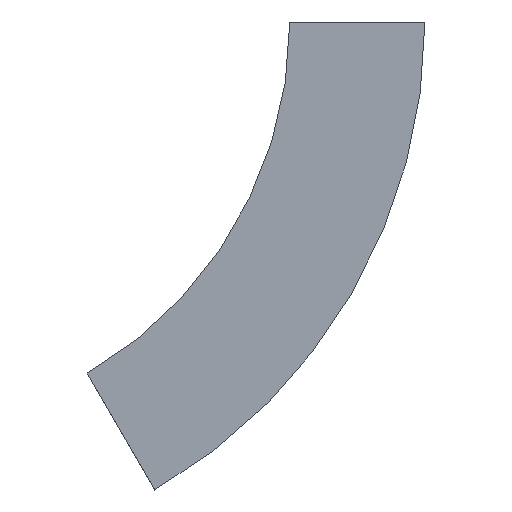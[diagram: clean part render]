
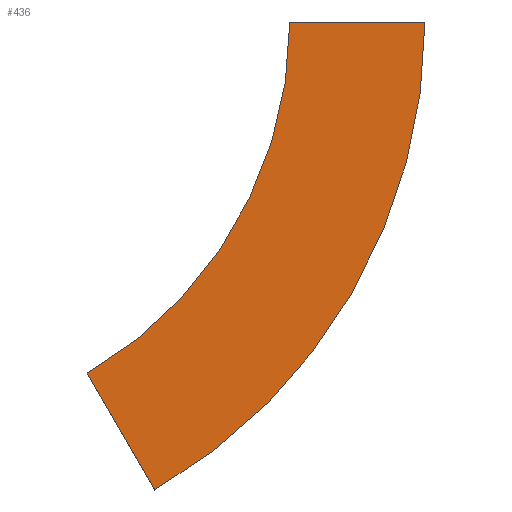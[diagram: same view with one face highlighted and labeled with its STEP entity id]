
A CAD part, left-side view. The second image highlights one B-rep face of the part: STEP entity #436.
In plain terms, the highlighted planar face has unit normal (-1, 0, 0) as drawn and (1, 0, 0) by its records, which use the part's own axes.
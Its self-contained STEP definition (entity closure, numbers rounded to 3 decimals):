
#4 = CARTESIAN_POINT ( 'NONE',  ( 0., 300., 0. ) ) ;
#18 = EDGE_CURVE ( 'NONE', #133, #458, #37, .T. ) ;
#28 = VERTEX_POINT ( 'NONE', #339 ) ;
#37 = CIRCLE ( 'NONE', #375, 400. ) ;
#38 = DIRECTION ( 'NONE',  ( 0., 0.5, 0.866 ) ) ;
#69 = CARTESIAN_POINT ( 'NONE',  ( 0., 300., 0. ) ) ;
#78 = DIRECTION ( 'NONE',  ( -1., 0., 0. ) ) ;
#131 = AXIS2_PLACEMENT_3D ( 'NONE', #453, #78, #315 ) ;
#133 = VERTEX_POINT ( 'NONE', #151 ) ;
#151 = CARTESIAN_POINT ( 'NONE',  ( 0., -100., 0. ) ) ;
#170 = PLANE ( 'NONE',  #131 ) ;
#191 = ORIENTED_EDGE ( 'NONE', *, *, #18, .T. ) ;
#207 = AXIS2_PLACEMENT_3D ( 'NONE', #4, #526, #395 ) ;
#208 = DIRECTION ( 'NONE',  ( 1., 0., 0. ) ) ;
#219 = VECTOR ( 'NONE', #38, 1000. ) ;
#238 = ORIENTED_EDGE ( 'NONE', *, *, #499, .T. ) ;
#271 = FACE_OUTER_BOUND ( 'NONE', #492, .T. ) ;
#308 = CARTESIAN_POINT ( 'NONE',  ( 0., -100., 0. ) ) ;
#315 = DIRECTION ( 'NONE',  ( 0., 0., 1. ) ) ;
#326 = ORIENTED_EDGE ( 'NONE', *, *, #394, .F. ) ;
#330 = ORIENTED_EDGE ( 'NONE', *, *, #380, .F. ) ;
#339 = CARTESIAN_POINT ( 'NONE',  ( 0., 0., 0. ) ) ;
#349 = DIRECTION ( 'NONE',  ( 0., 1., 0. ) ) ;
#356 = CIRCLE ( 'NONE', #207, 300. ) ;
#375 = AXIS2_PLACEMENT_3D ( 'NONE', #69, #208, #469 ) ;
#380 = EDGE_CURVE ( 'NONE', #133, #28, #571, .T. ) ;
#394 = EDGE_CURVE ( 'NONE', #28, #416, #356, .T. ) ;
#395 = DIRECTION ( 'NONE',  ( 0., -1., 0. ) ) ;
#416 = VERTEX_POINT ( 'NONE', #569 ) ;
#436 = ADVANCED_FACE ( 'NONE', ( #271 ), #170, .F. ) ;
#453 = CARTESIAN_POINT ( 'NONE',  ( 0., -100., 0. ) ) ;
#458 = VERTEX_POINT ( 'NONE', #482 ) ;
#467 = VECTOR ( 'NONE', #349, 1000. ) ;
#469 = DIRECTION ( 'NONE',  ( 0., -1., 0. ) ) ;
#482 = CARTESIAN_POINT ( 'NONE',  ( 0., 100., -346.41 ) ) ;
#492 = EDGE_LOOP ( 'NONE', ( #326, #330, #191, #238 ) ) ;
#499 = EDGE_CURVE ( 'NONE', #458, #416, #523, .T. ) ;
#522 = CARTESIAN_POINT ( 'NONE',  ( 0., 100., -346.41 ) ) ;
#523 = LINE ( 'NONE', #522, #219 ) ;
#526 = DIRECTION ( 'NONE',  ( 1., 0., 0. ) ) ;
#569 = CARTESIAN_POINT ( 'NONE',  ( 0., 150., -259.808 ) ) ;
#571 = LINE ( 'NONE', #308, #467 ) ;
